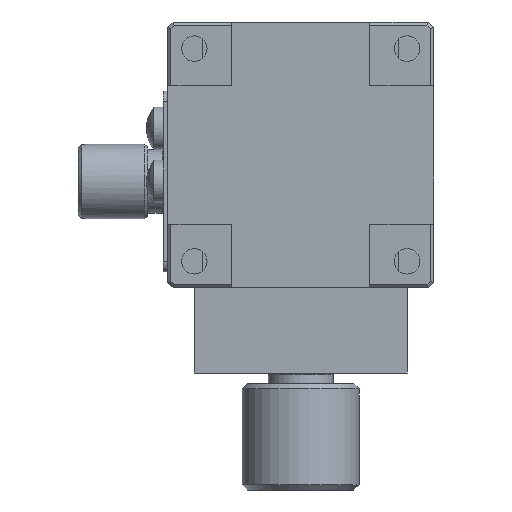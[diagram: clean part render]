
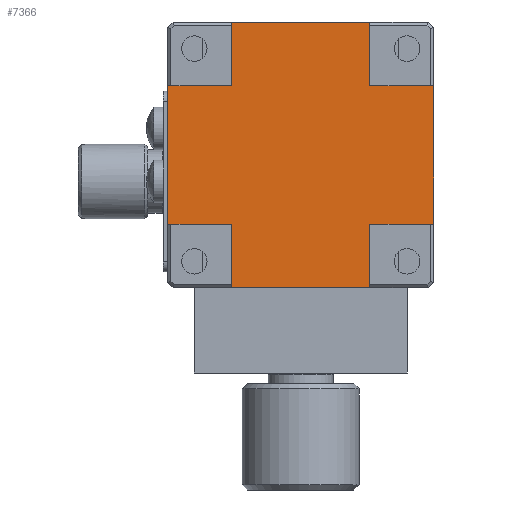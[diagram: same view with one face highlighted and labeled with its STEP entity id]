
A CAD part, front view. The second image highlights one B-rep face of the part: STEP entity #7366.
In plain terms, the highlighted planar face has unit normal (0, -1, 0).
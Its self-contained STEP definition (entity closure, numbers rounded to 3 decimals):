
#114 = VECTOR ( 'NONE', #17574, 1000. ) ;
#441 = CARTESIAN_POINT ( 'NONE',  ( 0., 0.4, -6. ) ) ;
#918 = DIRECTION ( 'NONE',  ( 0., 0., -1. ) ) ;
#942 = EDGE_CURVE ( 'NONE', #8817, #14199, #24168, .T. ) ;
#1713 = LINE ( 'NONE', #22953, #16768 ) ;
#2024 = CARTESIAN_POINT ( 'NONE',  ( 19., 0.4, -25. ) ) ;
#2111 = DIRECTION ( 'NONE',  ( 0., 0., -1. ) ) ;
#2191 = ORIENTED_EDGE ( 'NONE', *, *, #10622, .T. ) ;
#2772 = ORIENTED_EDGE ( 'NONE', *, *, #24437, .F. ) ;
#2785 = VECTOR ( 'NONE', #12775, 1000. ) ;
#2974 = CARTESIAN_POINT ( 'NONE',  ( 19., 0.4, -25. ) ) ;
#2990 = VECTOR ( 'NONE', #5527, 1000. ) ;
#3131 = VERTEX_POINT ( 'NONE', #14645 ) ;
#3600 = VERTEX_POINT ( 'NONE', #2974 ) ;
#3612 = VECTOR ( 'NONE', #4209, 1000. ) ;
#3645 = ORIENTED_EDGE ( 'NONE', *, *, #18952, .F. ) ;
#4209 = DIRECTION ( 'NONE',  ( 0., 0., 1. ) ) ;
#4340 = LINE ( 'NONE', #23958, #17515 ) ;
#4819 = ORIENTED_EDGE ( 'NONE', *, *, #942, .F. ) ;
#4908 = LINE ( 'NONE', #12139, #21348 ) ;
#4943 = CARTESIAN_POINT ( 'NONE',  ( 19., 0.4, 0. ) ) ;
#5305 = EDGE_CURVE ( 'NONE', #19052, #14199, #19765, .T. ) ;
#5507 = CARTESIAN_POINT ( 'NONE',  ( 6., 0.4, 0. ) ) ;
#5527 = DIRECTION ( 'NONE',  ( 0., 0., 1. ) ) ;
#5884 = CARTESIAN_POINT ( 'NONE',  ( 6., 0.4, -6. ) ) ;
#6048 = VECTOR ( 'NONE', #14564, 1000. ) ;
#6234 = DIRECTION ( 'NONE',  ( -1., 0., 0. ) ) ;
#6276 = VERTEX_POINT ( 'NONE', #7949 ) ;
#6621 = CARTESIAN_POINT ( 'NONE',  ( 25., 0.4, 0. ) ) ;
#6790 = ORIENTED_EDGE ( 'NONE', *, *, #21801, .F. ) ;
#6839 = CARTESIAN_POINT ( 'NONE',  ( 25., 0.4, -6. ) ) ;
#6859 = VECTOR ( 'NONE', #2111, 1000. ) ;
#7366 = ADVANCED_FACE ( 'NONE', ( #7994 ), #14207, .T. ) ;
#7607 = CARTESIAN_POINT ( 'NONE',  ( 0., 0.4, -19. ) ) ;
#7715 = LINE ( 'NONE', #2024, #114 ) ;
#7949 = CARTESIAN_POINT ( 'NONE',  ( 6., 0.4, -25. ) ) ;
#7994 = FACE_OUTER_BOUND ( 'NONE', #18127, .T. ) ;
#8462 = CARTESIAN_POINT ( 'NONE',  ( 0., 0.4, -19. ) ) ;
#8560 = AXIS2_PLACEMENT_3D ( 'NONE', #13955, #17860, #918 ) ;
#8817 = VERTEX_POINT ( 'NONE', #11125 ) ;
#8857 = CARTESIAN_POINT ( 'NONE',  ( 25., 0.4, -19. ) ) ;
#9633 = DIRECTION ( 'NONE',  ( -1., 0., 0. ) ) ;
#9877 = VECTOR ( 'NONE', #9633, 1000. ) ;
#10047 = DIRECTION ( 'NONE',  ( 0., 0., -1. ) ) ;
#10124 = DIRECTION ( 'NONE',  ( 1., 0., 0. ) ) ;
#10488 = DIRECTION ( 'NONE',  ( -1., 0., 0. ) ) ;
#10500 = LINE ( 'NONE', #18580, #2785 ) ;
#10584 = ORIENTED_EDGE ( 'NONE', *, *, #17688, .F. ) ;
#10622 = EDGE_CURVE ( 'NONE', #18434, #19650, #4340, .T. ) ;
#10657 = ORIENTED_EDGE ( 'NONE', *, *, #5305, .T. ) ;
#11125 = CARTESIAN_POINT ( 'NONE',  ( 19., 0.4, -6. ) ) ;
#12139 = CARTESIAN_POINT ( 'NONE',  ( 25., 0.4, -19. ) ) ;
#12775 = DIRECTION ( 'NONE',  ( 0., 0., 1. ) ) ;
#13297 = LINE ( 'NONE', #7607, #9877 ) ;
#13955 = CARTESIAN_POINT ( 'NONE',  ( 12.5, 0.4, -12.5 ) ) ;
#14047 = LINE ( 'NONE', #21876, #16413 ) ;
#14199 = VERTEX_POINT ( 'NONE', #20305 ) ;
#14207 = PLANE ( 'NONE',  #8560 ) ;
#14564 = DIRECTION ( 'NONE',  ( 1., 0., 0. ) ) ;
#14645 = CARTESIAN_POINT ( 'NONE',  ( 19., 0.4, -19. ) ) ;
#14938 = EDGE_CURVE ( 'NONE', #19052, #3131, #4908, .T. ) ;
#15007 = VERTEX_POINT ( 'NONE', #8462 ) ;
#15378 = EDGE_CURVE ( 'NONE', #19899, #15007, #17532, .T. ) ;
#16037 = EDGE_CURVE ( 'NONE', #18434, #8817, #24180, .T. ) ;
#16345 = ORIENTED_EDGE ( 'NONE', *, *, #16037, .F. ) ;
#16413 = VECTOR ( 'NONE', #10124, 1000. ) ;
#16768 = VECTOR ( 'NONE', #19161, 1000. ) ;
#17016 = CARTESIAN_POINT ( 'NONE',  ( 6., 0.4, -19. ) ) ;
#17050 = LINE ( 'NONE', #18582, #2990 ) ;
#17128 = ORIENTED_EDGE ( 'NONE', *, *, #20194, .T. ) ;
#17515 = VECTOR ( 'NONE', #6234, 1000. ) ;
#17532 = LINE ( 'NONE', #21203, #6859 ) ;
#17574 = DIRECTION ( 'NONE',  ( 0., 0., -1. ) ) ;
#17665 = ORIENTED_EDGE ( 'NONE', *, *, #14938, .F. ) ;
#17688 = EDGE_CURVE ( 'NONE', #19779, #19650, #10500, .T. ) ;
#17734 = CARTESIAN_POINT ( 'NONE',  ( 19., 0.4, 0. ) ) ;
#17860 = DIRECTION ( 'NONE',  ( 0., -1., 0. ) ) ;
#18127 = EDGE_LOOP ( 'NONE', ( #23186, #2772, #23566, #17128, #6790, #17665, #10657, #4819, #16345, #2191, #10584, #3645 ) ) ;
#18434 = VERTEX_POINT ( 'NONE', #17734 ) ;
#18580 = CARTESIAN_POINT ( 'NONE',  ( 6., 0.4, 0. ) ) ;
#18582 = CARTESIAN_POINT ( 'NONE',  ( 6., 0.4, -25. ) ) ;
#18952 = EDGE_CURVE ( 'NONE', #19899, #19779, #14047, .T. ) ;
#19052 = VERTEX_POINT ( 'NONE', #8857 ) ;
#19161 = DIRECTION ( 'NONE',  ( 1., 0., 0. ) ) ;
#19650 = VERTEX_POINT ( 'NONE', #5507 ) ;
#19765 = LINE ( 'NONE', #6621, #3612 ) ;
#19779 = VERTEX_POINT ( 'NONE', #5884 ) ;
#19899 = VERTEX_POINT ( 'NONE', #441 ) ;
#20194 = EDGE_CURVE ( 'NONE', #6276, #3600, #1713, .T. ) ;
#20305 = CARTESIAN_POINT ( 'NONE',  ( 25., 0.4, -6. ) ) ;
#20718 = VERTEX_POINT ( 'NONE', #17016 ) ;
#21203 = CARTESIAN_POINT ( 'NONE',  ( 0., 0.4, 0. ) ) ;
#21348 = VECTOR ( 'NONE', #10488, 1000. ) ;
#21360 = VECTOR ( 'NONE', #10047, 1000. ) ;
#21801 = EDGE_CURVE ( 'NONE', #3131, #3600, #7715, .T. ) ;
#21876 = CARTESIAN_POINT ( 'NONE',  ( 0., 0.4, -6. ) ) ;
#22953 = CARTESIAN_POINT ( 'NONE',  ( 0., 0.4, -25. ) ) ;
#23186 = ORIENTED_EDGE ( 'NONE', *, *, #15378, .T. ) ;
#23401 = EDGE_CURVE ( 'NONE', #6276, #20718, #17050, .T. ) ;
#23566 = ORIENTED_EDGE ( 'NONE', *, *, #23401, .F. ) ;
#23958 = CARTESIAN_POINT ( 'NONE',  ( 0., 0.4, 0. ) ) ;
#24168 = LINE ( 'NONE', #6839, #6048 ) ;
#24180 = LINE ( 'NONE', #4943, #21360 ) ;
#24437 = EDGE_CURVE ( 'NONE', #20718, #15007, #13297, .T. ) ;
